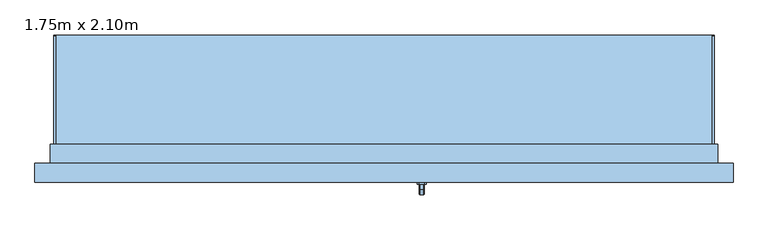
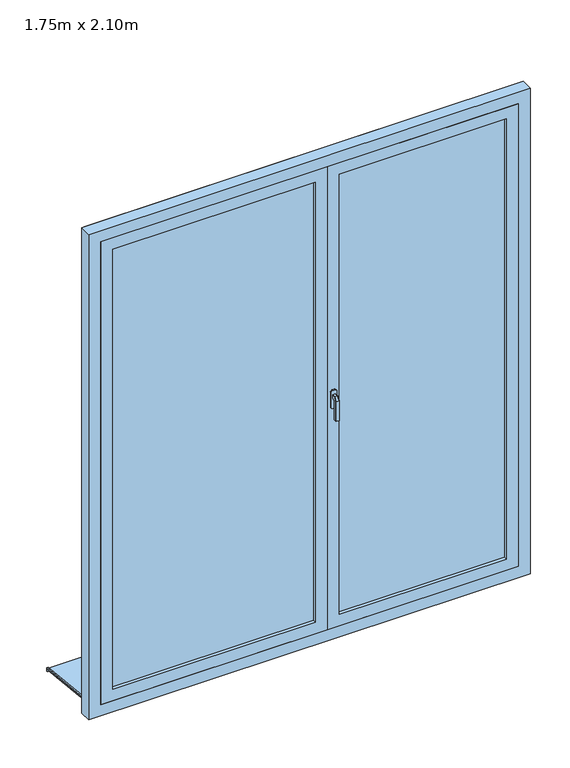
"""IFC4 building model written with IfcOpenShell, lengths in millimetres: window geometry, 285-porte-fenetre-linteau-droit-tierce-parametrique-80 : 1.75m x 2.10m."""

from ifc_helpers import new_model, si_unit, point, frame, frame_2d, origin, place, context, project, spatial, polyline, circle_curve, trimmed, segment, composite_curve, outline, extrude, faceted_brep, source, transform, mapped, element, save


def window_1_75m_x_2_10m_70a65003(model_context):
    return source(origin(), model_context, "Body", "SolidModel", [
        faceted_brep([(380.6460097, -196.0, 1122.0339292), (382.0339292, -196.0, 1120.6460097), (382.0339292, -196.0, 1109.3323012), (380.6676988, -196.0, 1107.9660708), (369.3323012, -196.0, 1107.9660708), (367.9660708, -196.0, 1109.3323012), (367.9660708, -196.0, 1120.6460097), (369.3539903, -196.0, 1122.0339292), (380.6460097, -208.9135489, 1122.0339292), (382.0339292, -208.3386538, 1120.6460097), (382.0339292, -221.6460097, 1107.3386538), (382.0339292, -221.6460097, 1020.0), (382.0339292, -210.3323012, 1020.0), (382.0339292, -210.3323012, 1102.6523623), (382.0339292, -203.6523623, 1109.3323012), (380.6676988, -203.0864511, 1107.9660708), (369.3323012, -203.0864511, 1107.9660708), (367.9660708, -203.6523623, 1109.3323012), (367.9660708, -210.3323012, 1102.6523623), (367.9660708, -210.3323012, 1020.0), (367.9660708, -221.6460097, 1020.0), (367.9660708, -221.6460097, 1107.3386538), (367.9660708, -208.3386538, 1120.6460097), (369.3539903, -208.9135489, 1122.0339292), (380.6460097, -223.0339292, 1107.9135489), (380.6676988, -208.9660708, 1102.0864511), (369.3323012, -208.9660708, 1102.0864511), (369.3539903, -223.0339292, 1107.9135489), (380.6460097, -223.0339292, 1020.0), (369.3539903, -223.0339292, 1020.0), (369.3323012, -208.9660708, 1020.0), (380.6676988, -208.9660708, 1020.0)], [[[0, 1, 2, 3, 4, 5, 6, 7]], [[1, 0, 8, 9]], [[2, 1, 9, 10, 11, 12, 13, 14]], [[3, 2, 14, 15]], [[4, 3, 15, 16]], [[5, 4, 16, 17]], [[6, 5, 17, 18, 19, 20, 21, 22]], [[7, 6, 22, 23]], [[0, 7, 23, 8]], [[9, 8, 24, 10]], [[15, 14, 13, 25]], [[16, 15, 25, 26]], [[17, 16, 26, 18]], [[23, 22, 21, 27]], [[8, 23, 27, 24]], [[28, 29, 20, 19, 30, 31, 12, 11]], [[10, 24, 28, 11]], [[25, 13, 12, 31]], [[26, 25, 31, 30]], [[18, 26, 30, 19]], [[27, 21, 20, 29]], [[24, 27, 29, 28]]]),
        extrude(outline(polyline([(1140.0, 382.0), (1140.0, 368.0), (1135.0, 363.0), (1065.0, 363.0), (1060.0, 368.0), (1060.0, 382.0), (1065.0, 387.0), (1135.0, 387.0), (1140.0, 382.0)])), frame((0.0, -196.0, 0.0), z_axis=(0.0, 1.0, 0.0), x_axis=(0.0, 0.0, 1.0)), (0.0, 0.0, 1.0), 6.0),
        extrude(outline(polyline([(200.0288776, 7.6698637), (200.0288776, -3.4083388), (195.0288776, -2.8828176), (195.0288776, 2.9401731), (-110.0, 35.0), (-110.0, 50.0), (-105.0, 50.0), (-105.0, 39.7296906), (200.0288776, 7.6698637)])), frame((-600.0, 0.0, 0.0), z_axis=(1.0, 0.0, 0.0), x_axis=(0.0, 1.0, 0.0)), (0.0, 0.0, 1.0), 1750.0),
        extrude(outline(composite_curve([segment(polyline([(200.0288776, 7.6698637), (-105.0, 39.7296906), (-105.0, 44.757232), (196.4469915, 13.0738765)]), True, "CONTINUOUS"), segment(trimmed(circle_curve(frame_2d((196.0288776, 9.0957889)), 4.0), [point((196.4469915, 13.0738765))], [point((200.0288776, 9.0957889))], False, "CARTESIAN"), True, "CONTINUOUS"), segment(polyline([(200.0288776, 9.0957889), (200.0288776, 7.6698637)]), True, "CONTINUOUS")], self_intersect=False)), frame((-600.0, 0.0, 0.0), z_axis=(1.0, 0.0, 0.0), x_axis=(0.0, 1.0, 0.0)), (0.0, 0.0, 1.0), 5.0),
        extrude(outline(composite_curve([segment(polyline([(200.0288776, 7.6698637), (-105.0, 39.7296906), (-105.0, 44.757232), (196.4469915, 13.0738765)]), True, "CONTINUOUS"), segment(trimmed(circle_curve(frame_2d((196.0288776, 9.0957889)), 4.0), [point((196.4469915, 13.0738765))], [point((200.0288776, 9.0957889))], False, "CARTESIAN"), True, "CONTINUOUS"), segment(polyline([(200.0288776, 9.0957889), (200.0288776, 7.6698637)]), True, "CONTINUOUS")], self_intersect=False)), frame((1145.0, 0.0, 0.0), z_axis=(1.0, 0.0, 0.0), x_axis=(0.0, 1.0, 0.0)), (0.0, 0.0, 1.0), 5.0),
        extrude(outline(polyline([(85.0, 350.0), (2135.0, 350.0), (2135.0, -600.0), (85.0, -600.0), (85.0, 350.0)]), holes=[polyline([(135.0, -550.0), (2085.0, -550.0), (2085.0, 300.0), (135.0, 300.0), (135.0, -550.0)])]), frame((0.0, -190.0, 0.0), z_axis=(0.0, 1.0, 0.0), x_axis=(0.0, 0.0, 1.0)), (0.0, 0.0, 1.0), 40.0),
        extrude(outline(polyline([(400.0, -164.0), (1100.0, -164.0), (1100.0, -176.0), (400.0, -176.0), (400.0, -164.0)])), frame((0.0, 0.0, 135.0), z_axis=(0.0, 0.0, 1.0), x_axis=(1.0, 0.0, 0.0)), (0.0, 0.0, 1.0), 1950.0),
        extrude(outline(polyline([(-550.0, -164.0), (300.0, -164.0), (300.0, -176.0), (-550.0, -176.0), (-550.0, -164.0)])), frame((0.0, 0.0, 135.0), z_axis=(0.0, 0.0, 1.0), x_axis=(1.0, 0.0, 0.0)), (0.0, 0.0, 1.0), 1950.0),
        extrude(outline(polyline([(85.0, 1150.0), (2135.0, 1150.0), (2135.0, 350.0), (85.0, 350.0), (85.0, 1150.0)]), holes=[polyline([(135.0, 400.0), (2085.0, 400.0), (2085.0, 1100.0), (135.0, 1100.0), (135.0, 400.0)])]), frame((0.0, -190.0, 0.0), z_axis=(0.0, 1.0, 0.0), x_axis=(0.0, 0.0, 1.0)), (0.0, 0.0, 1.0), 40.0),
        faceted_brep([(-650.0, -190.0, 35.0), (-650.0, -140.0, 35.0), (-600.0, -140.0, 35.0), (-600.0, -110.0, 35.0), (1150.0, -110.0, 35.0), (1150.0, -140.0, 35.0), (1200.0, -140.0, 35.0), (1200.0, -190.0, 35.0), (-650.0, -190.0, 2185.0), (-650.0, -140.0, 2185.0), (1200.0, -140.0, 2185.0), (1150.0, -140.0, 74.3761425), (-600.0, -140.0, 74.3761425), (-585.0, -140.0, 2120.0), (-585.0, -140.0, 100.0), (1135.0, -140.0, 100.0), (1135.0, -140.0, 2120.0), (-600.0, -90.0, 60.9786829), (-600.0, -90.0, 45.0), (-600.0, -100.0, 45.0), (-600.0, -100.0, 50.0), (-600.0, -110.0, 50.0), (1150.0, -110.0, 50.0), (1150.0, -100.0, 50.0), (1150.0, -100.0, 45.0), (1150.0, -90.0, 45.0), (1150.0, -90.0, 60.9786829), (1200.0, -190.0, 2185.0), (1150.0, -190.0, 2135.0), (1150.0, -190.0, 85.0), (-600.0, -190.0, 85.0), (-600.0, -190.0, 2135.0), (-585.0, -150.0, 2120.0), (-585.0, -150.0, 100.0), (1135.0, -150.0, 100.0), (1135.0, -150.0, 2120.0), (1150.0, -150.0, 2135.0), (-600.0, -150.0, 2135.0), (-600.0, -150.0, 85.0), (1150.0, -150.0, 85.0)], [[[0, 1, 2, 3, 4, 5, 6, 7]], [[1, 0, 8, 9]], [[1, 9, 10, 6, 5, 11, 12, 2], [13, 14, 15, 16]], [[12, 17, 18, 19, 20, 21, 3, 2]], [[3, 21, 22, 4]], [[4, 22, 23, 24, 25, 26, 11, 5]], [[6, 10, 27, 7]], [[0, 7, 27, 8], [28, 29, 30, 31]], [[13, 32, 33, 14]], [[33, 34, 15, 14]], [[35, 16, 15, 34]], [[17, 12, 11, 26]], [[36, 37, 38, 39], [32, 35, 34, 33]], [[38, 37, 31, 30]], [[30, 29, 39, 38]], [[28, 36, 39, 29]], [[18, 17, 26, 25]], [[19, 18, 25, 24]], [[20, 19, 24, 23]], [[21, 20, 23, 22]], [[13, 16, 35, 32]], [[37, 36, 28, 31]], [[10, 9, 8, 27]]]),
        extrude(outline(polyline([(35.0, -610.0), (35.0, -600.0), (2135.0, -600.0), (2135.0, 1150.0), (35.0, 1150.0), (35.0, 1160.0), (2145.0, 1160.0), (2145.0, -610.0), (35.0, -610.0)])), frame((0.0, -140.0, 0.0), z_axis=(0.0, 1.0, 0.0), x_axis=(0.0, 0.0, 1.0)), (0.0, 0.0, 1.0), 50.0),
        extrude(outline(polyline([(370.0, -142.0), (370.0, -150.0), (330.0, -150.0), (330.0, -142.0), (370.0, -142.0)])), frame((0.0, 0.0, 100.0), z_axis=(0.0, 0.0, 1.0), x_axis=(1.0, 0.0, 0.0)), (0.0, 0.0, 1.0), 2020.0),
    ])


if __name__ == "__main__":
    model = new_model("IFC4")
    model_context = context("Model", 3, world=origin())
    ifc_project = project(units=[si_unit("LENGTHUNIT", "METRE", prefix="MILLI")], contexts=[model_context])
    site = spatial("IfcSite", under=ifc_project)
    building = spatial("IfcBuilding", under=site)
    placement = place(None, origin())
    window_1_75m_x_2_10m_shape = window_1_75m_x_2_10m_70a65003(model_context)
    element("IfcWindow", 1, ObjectType="285-porte-fenetre-linteau-droit-tierce-parametrique-80 : 1.75m x 2.10m", at=placement, inside=building, context=model_context, shape_type="MappedRepresentation", body=[
        mapped(window_1_75m_x_2_10m_shape, transform((0.0, 0.0, 0.0), x_axis=(1.0, 0.0, 0.0), y_axis=(0.0, 1.0, 0.0), z_axis=(0.0, 0.0, 1.0))),
    ])
    save(model, "model.ifc")
